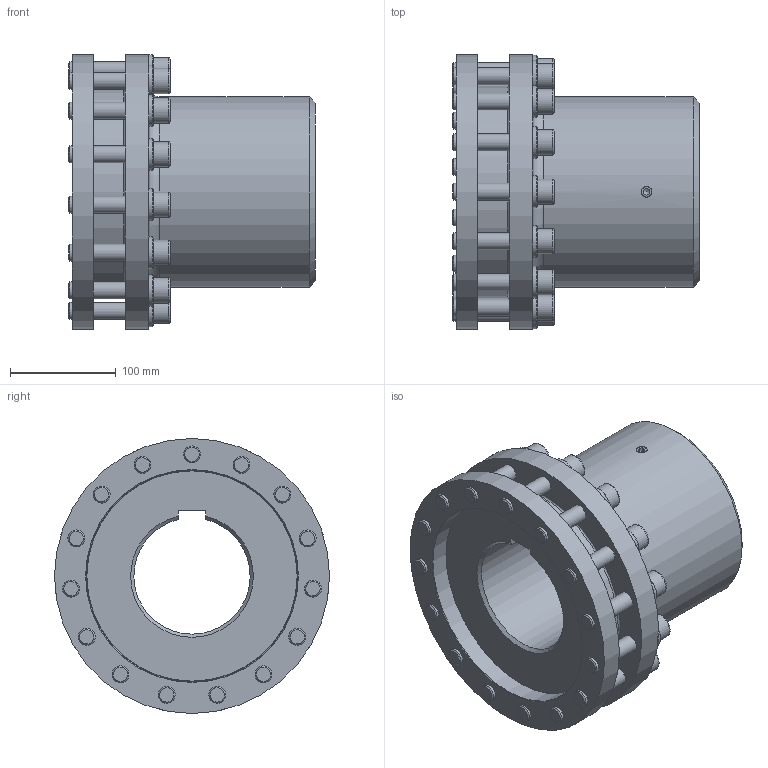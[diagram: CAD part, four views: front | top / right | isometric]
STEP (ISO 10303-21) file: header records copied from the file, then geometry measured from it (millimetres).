
FILE_DESCRIPTION(/* description */ (''),/* implementation_level */ '2;1');
FILE_NAME(/* name */ 'C:\Users\milman01\Desktop\step file\xxxxxx\46816_Shrinkwrap_1.stp',/* time_stamp */ '2017-03-15T10:20:23+01:00',/* author */ ('milman01'),/* organization */ (''),/* preprocessor_version */ 'ST-DEVELOPER v16.1',/* originating_system */ 'Autodesk Inventor 2016',/* authorisation */ '');
FILE_SCHEMA (('AUTOMOTIVE_DESIGN { 1 0 10303 214 3 1 1 }'));
Length unit declared in the file: millimetre
Products named in the file (1): 46816_Shrinkwrap_1
Bounding box: 233.5 x 260 x 260 mm (x, y, z)
Volume: 4808721.1 mm3; surface area: 460446.4 mm2
Topology: 1 solids, 1 shells, 373 faces, 810 edges, 519 vertices
Faces by surface type: plane 187, cylinder 99, cone 70, torus 17
Full cylindrical faces by diameter (mm): 10.106 x1, 16 x30, 17 x30, 24 x15, 30 x15, 180 x1, 200 x2, 260 x2
Entity records: 9209 total; most frequent: CARTESIAN_POINT 1659, DIRECTION 1500, ORIENTED_EDGE 1160, EDGE_LOOP 666, AXIS2_PLACEMENT_3D 646, EDGE_CURVE 580, VERTEX_POINT 470, STYLED_ITEM 374
